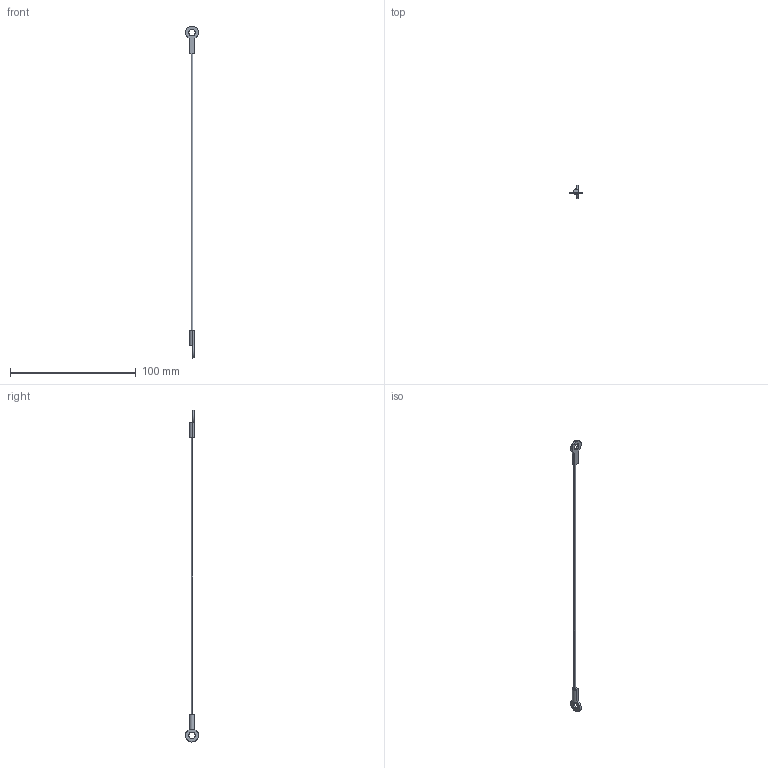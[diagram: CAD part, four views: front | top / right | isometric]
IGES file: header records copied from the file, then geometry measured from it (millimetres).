
Start section: SolidWorks IGES file using analytic representation for surfaces
Global section: file name: C:\Users\ianosborn\Desktop\LA1070_v2\LA1070_v2_20260323_IGES\LA1070.I06-254C1.igs; native system: SolidWorks 2019; preprocessor: SolidWorks 2019; author: IanOsborn; date: 260323.145044; units: millimetre
Bounding box: 10.4 x 10.4 x 264.41 mm (x, y, z)
Surface area: 1876.5 mm2 (no closed solid volume)
Topology: 0 solids, 0 shells, 27 faces, 460 edges, 460 vertices
Faces by surface type: bspline 16, revolution 11
